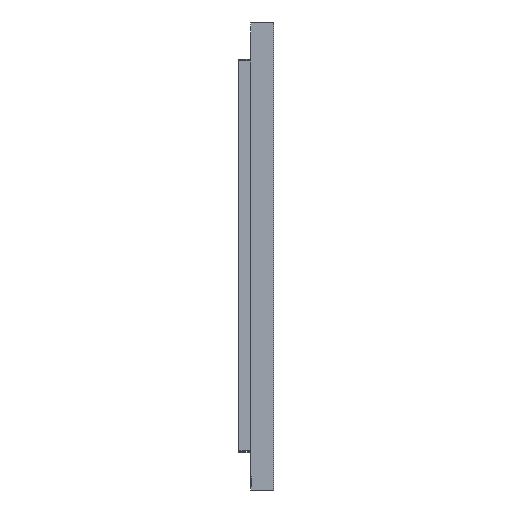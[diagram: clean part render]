
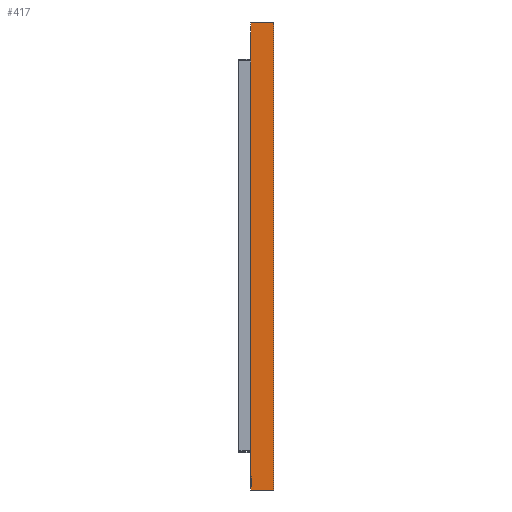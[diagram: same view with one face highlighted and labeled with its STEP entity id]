
A CAD part, left-side view. The second image highlights one B-rep face of the part: STEP entity #417.
In plain terms, the highlighted planar face has unit normal (-1, 0, 0).
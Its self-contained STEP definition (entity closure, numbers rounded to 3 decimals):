
#76 = LINE ( 'NONE', #2131, #1791 ) ;
#249 = EDGE_CURVE ( 'NONE', #6460, #5374, #776, .T. ) ;
#410 = LINE ( 'NONE', #2505, #1243 ) ;
#417 = ADVANCED_FACE ( 'NONE', ( #4748 ), #5737, .F. ) ;
#449 = VERTEX_POINT ( 'NONE', #3316 ) ;
#776 = LINE ( 'NONE', #6484, #6630 ) ;
#796 = EDGE_CURVE ( 'NONE', #449, #5374, #6692, .T. ) ;
#1243 = VECTOR ( 'NONE', #6192, 1000. ) ;
#1310 = AXIS2_PLACEMENT_3D ( 'NONE', #4236, #3759, #6575 ) ;
#1791 = VECTOR ( 'NONE', #4195, 1000. ) ;
#2087 = CARTESIAN_POINT ( 'NONE',  ( 159.833, 252.697, 299.139 ) ) ;
#2131 = CARTESIAN_POINT ( 'NONE',  ( 159.833, 261.697, 119.139 ) ) ;
#2391 = ORIENTED_EDGE ( 'NONE', *, *, #796, .T. ) ;
#2412 = ORIENTED_EDGE ( 'NONE', *, *, #249, .F. ) ;
#2488 = ORIENTED_EDGE ( 'NONE', *, *, #2851, .T. ) ;
#2505 = CARTESIAN_POINT ( 'NONE',  ( 159.833, 261.697, 299.139 ) ) ;
#2851 = EDGE_CURVE ( 'NONE', #5750, #449, #76, .T. ) ;
#3316 = CARTESIAN_POINT ( 'NONE',  ( 159.833, 252.697, 119.139 ) ) ;
#3380 = CARTESIAN_POINT ( 'NONE',  ( 159.833, 261.697, 119.139 ) ) ;
#3486 = EDGE_CURVE ( 'NONE', #5750, #6460, #410, .T. ) ;
#3653 = CARTESIAN_POINT ( 'NONE',  ( 159.833, 252.697, 299.139 ) ) ;
#3759 = DIRECTION ( 'NONE',  ( 1., 0., 0. ) ) ;
#4099 = VECTOR ( 'NONE', #6160, 1000. ) ;
#4195 = DIRECTION ( 'NONE',  ( 0., -1., 0. ) ) ;
#4236 = CARTESIAN_POINT ( 'NONE',  ( 159.833, 261.697, 299.139 ) ) ;
#4693 = ORIENTED_EDGE ( 'NONE', *, *, #3486, .F. ) ;
#4748 = FACE_OUTER_BOUND ( 'NONE', #4904, .T. ) ;
#4904 = EDGE_LOOP ( 'NONE', ( #2391, #2412, #4693, #2488 ) ) ;
#5374 = VERTEX_POINT ( 'NONE', #2087 ) ;
#5737 = PLANE ( 'NONE',  #1310 ) ;
#5750 = VERTEX_POINT ( 'NONE', #3380 ) ;
#5993 = DIRECTION ( 'NONE',  ( 0., -1., 0. ) ) ;
#6160 = DIRECTION ( 'NONE',  ( 0., 0., 1. ) ) ;
#6192 = DIRECTION ( 'NONE',  ( 0., 0., 1. ) ) ;
#6293 = CARTESIAN_POINT ( 'NONE',  ( 159.833, 261.697, 299.139 ) ) ;
#6460 = VERTEX_POINT ( 'NONE', #6293 ) ;
#6484 = CARTESIAN_POINT ( 'NONE',  ( 159.833, 261.697, 299.139 ) ) ;
#6575 = DIRECTION ( 'NONE',  ( 0., 0., -1. ) ) ;
#6630 = VECTOR ( 'NONE', #5993, 1000. ) ;
#6692 = LINE ( 'NONE', #3653, #4099 ) ;
